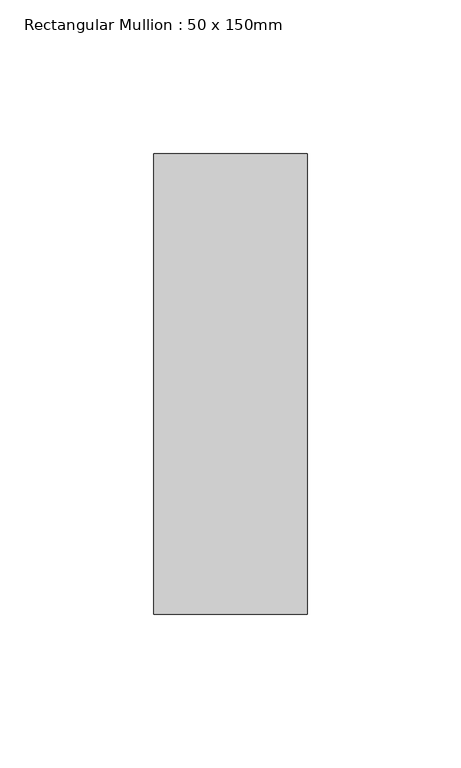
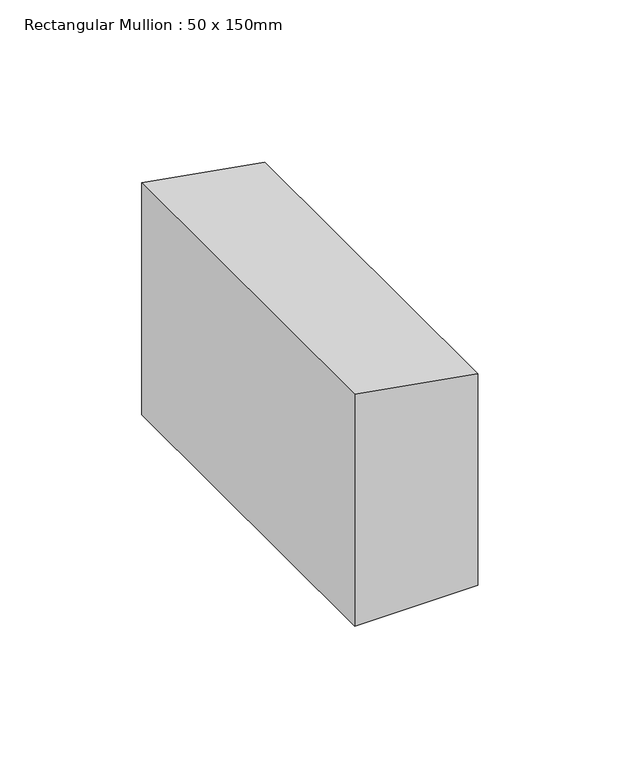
"""IFC4 building model written with IfcOpenShell, lengths in millimetres: member geometry, Rectangular Mullion : 50 x 150mm."""

from ifc_helpers import new_model, si_unit, frame, origin, place, context, project, spatial, polyline, outline, extrude, source, transform, mapped, element, save


def rectangular_mullion_50_x_150mm_455a6ad9(model_context):
    return source(origin(), model_context, "Body", "SweptSolid", [
        extrude(outline(polyline([(0.0, 0.0), (8.6762333, -50.0), (-91.0711617, -50.0), (-91.0711617, 0.0), (0.0, 0.0)])), frame((0.0, -75.0, 0.0), z_axis=(0.0, 1.0, 0.0), x_axis=(0.0, 0.0, 1.0)), (0.0, 0.0, 1.0), 150.0),
    ])


if __name__ == "__main__":
    model = new_model("IFC4")
    model_context = context("Model", 3, world=origin())
    ifc_project = project(units=[si_unit("LENGTHUNIT", "METRE", prefix="MILLI")], contexts=[model_context])
    site = spatial("IfcSite", under=ifc_project)
    building = spatial("IfcBuilding", under=site)
    placement = place(None, origin())
    rectangular_mullion_50_x_150mm_shape = rectangular_mullion_50_x_150mm_455a6ad9(model_context)
    element("IfcMember", 1, ObjectType="Rectangular Mullion : 50 x 150mm", at=placement, inside=building, context=model_context, shape_type="MappedRepresentation", body=[
        mapped(rectangular_mullion_50_x_150mm_shape, transform((0.0, 0.0, 0.0), x_axis=(1.0, 0.0, 0.0), y_axis=(0.0, 1.0, 0.0), z_axis=(0.0, 0.0, 1.0))),
    ])
    save(model, "model.ifc")
